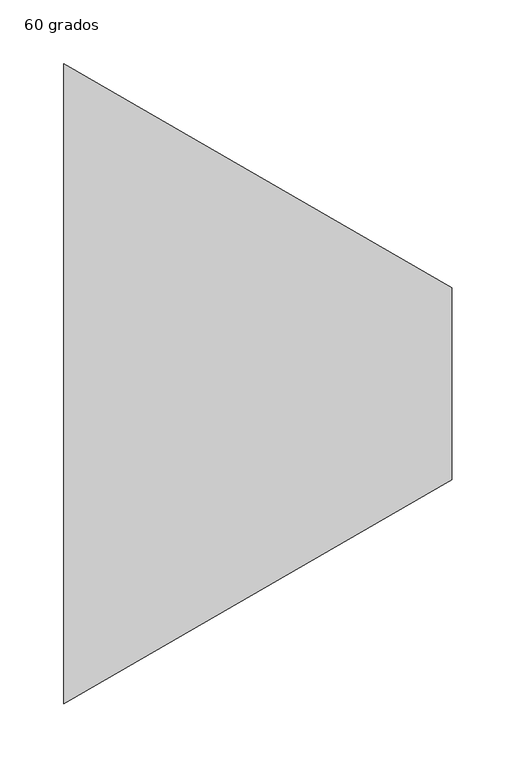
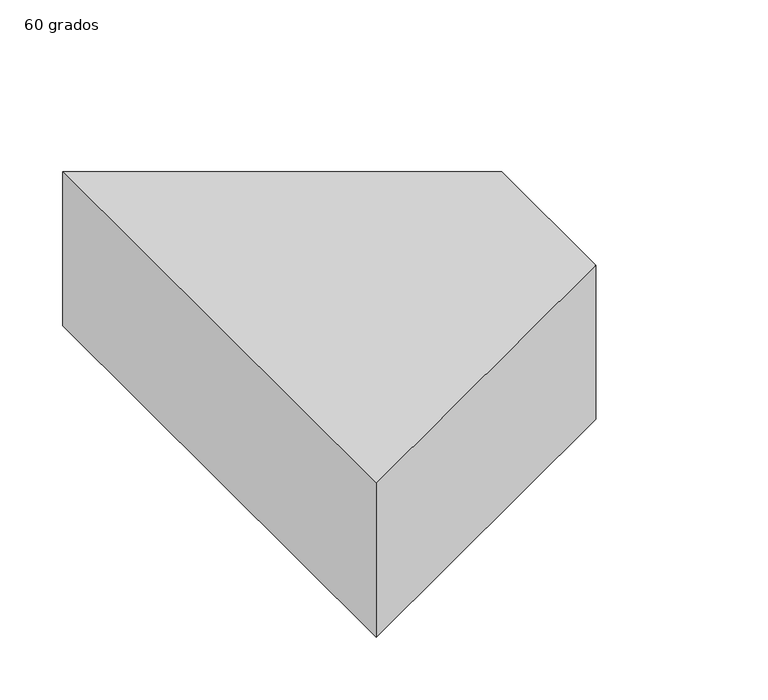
"""IFC4 building model written with IfcOpenShell, lengths in millimetres: duct fitting geometry, M_Transición rectangular - Ángulo : 60 grados."""

from ifc_helpers import new_model, si_unit, frame, origin, place, context, project, spatial, polyline, outline, extrude, source, transform, mapped, element, save


def duct_fitting_60_grados_c6f5faf2(model_context):
    return source(origin(), model_context, "Body", "SweptSolid", [
        extrude(outline(polyline([(0.0, -250.0), (0.0, 250.0), (303.1088913, 75.0), (303.1088913, -75.0), (0.0, -250.0)])), frame((0.0, 0.0, -75.0), z_axis=(0.0, 0.0, 1.0), x_axis=(1.0, 0.0, 0.0)), (0.0, 0.0, 1.0), 150.0),
    ])


if __name__ == "__main__":
    model = new_model("IFC4")
    model_context = context("Model", 3, world=origin())
    ifc_project = project(units=[si_unit("LENGTHUNIT", "METRE", prefix="MILLI")], contexts=[model_context])
    site = spatial("IfcSite", under=ifc_project)
    building = spatial("IfcBuilding", under=site)
    placement = place(None, origin())
    duct_fitting_60_grados_shape = duct_fitting_60_grados_c6f5faf2(model_context)
    element("IfcDuctFitting", 1, ObjectType="M_Transición rectangular - Ángulo : 60 grados", at=placement, inside=building, context=model_context, shape_type="MappedRepresentation", body=[
        mapped(duct_fitting_60_grados_shape, transform((0.0, 0.0, 0.0), x_axis=(1.0, 0.0, 0.0), y_axis=(0.0, 1.0, 0.0), z_axis=(0.0, 0.0, 1.0))),
    ])
    save(model, "model.ifc")
